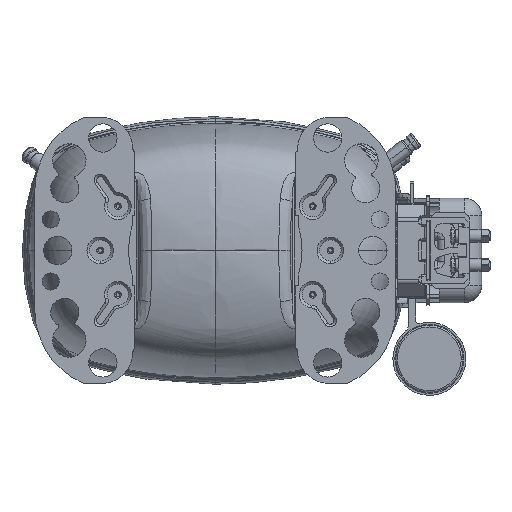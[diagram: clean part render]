
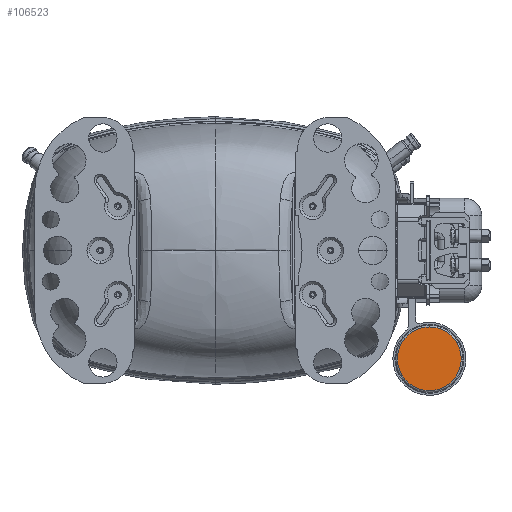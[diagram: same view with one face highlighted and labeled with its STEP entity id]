
A CAD part, front view. The second image highlights one B-rep face of the part: STEP entity #106523.
In plain terms, the highlighted planar face has unit normal (0, -1, 0) as drawn and (0, 0, -1) by its records, which use the part's own axes.
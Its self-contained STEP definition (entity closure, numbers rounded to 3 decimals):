
#106072=CARTESIAN_POINT('',(0.,0.,-97.5));
#106073=DIRECTION('',(0.,0.,-1.));
#106074=DIRECTION('',(0.,-1.,0.));
#106075=AXIS2_PLACEMENT_3D('',#106072,#106073,#106074);
#106077=CARTESIAN_POINT('',(0.,0.,-97.5));
#106078=DIRECTION('',(0.,0.,1.));
#106079=DIRECTION('',(0.,-1.,0.));
#106080=AXIS2_PLACEMENT_3D('',#106077,#106078,#106079);
#106102=CARTESIAN_POINT('',(0.,-18.,-97.5));
#106103=VERTEX_POINT('',#106102);
#106116=CARTESIAN_POINT('',(0.,18.,-97.5));
#106117=VERTEX_POINT('',#106116);
#106514=CARTESIAN_POINT('',(0.,0.,-97.5));
#106515=DIRECTION('',(0.,0.,1.));
#106516=DIRECTION('',(0.,1.,0.));
#106517=AXIS2_PLACEMENT_3D('',#106514,#106515,#106516);
#106518=PLANE('',#106517);
#106519=ORIENTED_EDGE('',*,*,#106493,.F.);
#106520=ORIENTED_EDGE('',*,*,#106509,.T.);
#106521=EDGE_LOOP('',(#106519,#106520));
#106522=FACE_OUTER_BOUND('',#106521,.F.);
#106523=ADVANCED_FACE('',(#106522),#106518,.F.);
#106076=CIRCLE('',#106075,18.);
#106081=CIRCLE('',#106080,18.);
#106493=EDGE_CURVE('',#106103,#106117,#106076,.T.);
#106509=EDGE_CURVE('',#106103,#106117,#106081,.T.);
